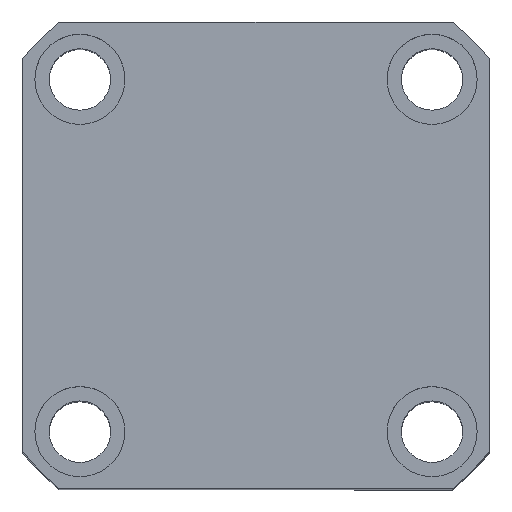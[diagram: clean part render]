
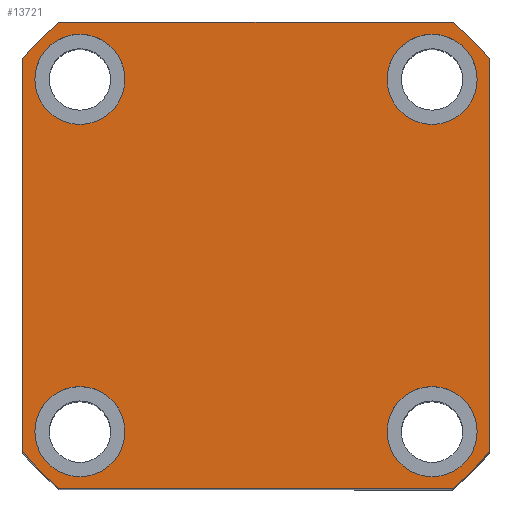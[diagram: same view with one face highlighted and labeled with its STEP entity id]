
A CAD part, top view. The second image highlights one B-rep face of the part: STEP entity #13721.
In plain terms, the highlighted planar face has unit normal (0, 0, 1) as drawn and (0, 0, -1) by its records, which use the part's own axes.
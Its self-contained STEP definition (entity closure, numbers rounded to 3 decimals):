
#216 = ORIENTED_EDGE ( 'NONE', *, *, #2743, .F. ) ;
#232 = CARTESIAN_POINT ( 'NONE',  ( 47.971, 57., 0. ) ) ;
#498 = VERTEX_POINT ( 'NONE', #1895 ) ;
#527 = VERTEX_POINT ( 'NONE', #14803 ) ;
#605 = EDGE_CURVE ( 'NONE', #498, #4466, #11967, .T. ) ;
#616 = CARTESIAN_POINT ( 'NONE',  ( 43., -43., 0. ) ) ;
#629 = CARTESIAN_POINT ( 'NONE',  ( 54., 43., 0. ) ) ;
#633 = DIRECTION ( 'NONE',  ( 0., 0., 1. ) ) ;
#772 = CARTESIAN_POINT ( 'NONE',  ( -43., 43., 0. ) ) ;
#1293 = EDGE_CURVE ( 'NONE', #2015, #527, #6297, .T. ) ;
#1352 = CARTESIAN_POINT ( 'NONE',  ( 0., 0., 0. ) ) ;
#1443 = CARTESIAN_POINT ( 'NONE',  ( 43., -43., 0. ) ) ;
#1501 = ORIENTED_EDGE ( 'NONE', *, *, #9954, .F. ) ;
#1529 = DIRECTION ( 'NONE',  ( 0., 0., -1. ) ) ;
#1565 = CIRCLE ( 'NONE', #6454, 11. ) ;
#1672 = LINE ( 'NONE', #5166, #7195 ) ;
#1802 = ORIENTED_EDGE ( 'NONE', *, *, #12799, .F. ) ;
#1819 = DIRECTION ( 'NONE',  ( -1., 0., 0. ) ) ;
#1878 = EDGE_LOOP ( 'NONE', ( #8518, #1898 ) ) ;
#1895 = CARTESIAN_POINT ( 'NONE',  ( -57., -47.971, 0. ) ) ;
#1898 = ORIENTED_EDGE ( 'NONE', *, *, #12429, .F. ) ;
#1904 = DIRECTION ( 'NONE',  ( 0., 0., 1. ) ) ;
#1937 = LINE ( 'NONE', #13585, #10575 ) ;
#1976 = DIRECTION ( 'NONE',  ( -1., 0., 0. ) ) ;
#1989 = FACE_BOUND ( 'NONE', #8502, .T. ) ;
#2015 = VERTEX_POINT ( 'NONE', #14696 ) ;
#2083 = DIRECTION ( 'NONE',  ( 0., -1., 0. ) ) ;
#2204 = CARTESIAN_POINT ( 'NONE',  ( -32., -43., 0. ) ) ;
#2244 = ORIENTED_EDGE ( 'NONE', *, *, #9610, .F. ) ;
#2536 = EDGE_CURVE ( 'NONE', #10197, #5300, #5535, .T. ) ;
#2543 = DIRECTION ( 'NONE',  ( 0., 0., 1. ) ) ;
#2629 = DIRECTION ( 'NONE',  ( -1., 0., 0. ) ) ;
#2743 = EDGE_CURVE ( 'NONE', #4466, #2015, #1672, .T. ) ;
#2754 = DIRECTION ( 'NONE',  ( 0., 0., 1. ) ) ;
#2986 = EDGE_LOOP ( 'NONE', ( #2244, #1501 ) ) ;
#3050 = CARTESIAN_POINT ( 'NONE',  ( 43., 43., 0. ) ) ;
#3223 = AXIS2_PLACEMENT_3D ( 'NONE', #12905, #5878, #14096 ) ;
#3282 = AXIS2_PLACEMENT_3D ( 'NONE', #772, #9017, #1976 ) ;
#3777 = AXIS2_PLACEMENT_3D ( 'NONE', #12576, #5552, #13777 ) ;
#3816 = EDGE_CURVE ( 'NONE', #10803, #8608, #14274, .T. ) ;
#4206 = CIRCLE ( 'NONE', #8216, 74.5 ) ;
#4225 = DIRECTION ( 'NONE',  ( 0., 0., -1. ) ) ;
#4244 = DIRECTION ( 'NONE',  ( -1., 0., 0. ) ) ;
#4466 = VERTEX_POINT ( 'NONE', #10145 ) ;
#4543 = EDGE_CURVE ( 'NONE', #14771, #498, #8202, .T. ) ;
#4744 = FACE_OUTER_BOUND ( 'NONE', #12534, .T. ) ;
#5044 = VECTOR ( 'NONE', #11672, 1000. ) ;
#5071 = CIRCLE ( 'NONE', #3282, 11. ) ;
#5116 = FACE_BOUND ( 'NONE', #1878, .T. ) ;
#5166 = CARTESIAN_POINT ( 'NONE',  ( -57., -57., 0. ) ) ;
#5226 = CARTESIAN_POINT ( 'NONE',  ( 0., 0., 0. ) ) ;
#5300 = VERTEX_POINT ( 'NONE', #11380 ) ;
#5467 = AXIS2_PLACEMENT_3D ( 'NONE', #8577, #1529, #9734 ) ;
#5535 = CIRCLE ( 'NONE', #3223, 11. ) ;
#5552 = DIRECTION ( 'NONE',  ( 0., 0., -1. ) ) ;
#5878 = DIRECTION ( 'NONE',  ( 0., 0., -1. ) ) ;
#6297 = CIRCLE ( 'NONE', #9598, 74.5 ) ;
#6318 = VERTEX_POINT ( 'NONE', #10239 ) ;
#6454 = AXIS2_PLACEMENT_3D ( 'NONE', #3050, #11256, #4244 ) ;
#6511 = ORIENTED_EDGE ( 'NONE', *, *, #605, .F. ) ;
#6699 = ORIENTED_EDGE ( 'NONE', *, *, #14766, .F. ) ;
#6786 = CIRCLE ( 'NONE', #14309, 11. ) ;
#6860 = ORIENTED_EDGE ( 'NONE', *, *, #1293, .F. ) ;
#6945 = CIRCLE ( 'NONE', #5467, 11. ) ;
#7041 = ORIENTED_EDGE ( 'NONE', *, *, #13222, .F. ) ;
#7127 = CARTESIAN_POINT ( 'NONE',  ( 57., 47.971, 0. ) ) ;
#7195 = VECTOR ( 'NONE', #14570, 1000. ) ;
#7456 = LINE ( 'NONE', #10494, #5044 ) ;
#7717 = CARTESIAN_POINT ( 'NONE',  ( 0., 0., 0. ) ) ;
#7887 = FACE_BOUND ( 'NONE', #2986, .T. ) ;
#7976 = EDGE_CURVE ( 'NONE', #8962, #9883, #9296, .T. ) ;
#7980 = VERTEX_POINT ( 'NONE', #13567 ) ;
#8063 = VERTEX_POINT ( 'NONE', #10116 ) ;
#8202 = LINE ( 'NONE', #9076, #8567 ) ;
#8216 = AXIS2_PLACEMENT_3D ( 'NONE', #7717, #633, #8871 ) ;
#8337 = ORIENTED_EDGE ( 'NONE', *, *, #2536, .F. ) ;
#8406 = PLANE ( 'NONE',  #11057 ) ;
#8502 = EDGE_LOOP ( 'NONE', ( #6699, #8337 ) ) ;
#8518 = ORIENTED_EDGE ( 'NONE', *, *, #3816, .F. ) ;
#8519 = CARTESIAN_POINT ( 'NONE',  ( 54., -43., 0. ) ) ;
#8567 = VECTOR ( 'NONE', #2083, 1000. ) ;
#8577 = CARTESIAN_POINT ( 'NONE',  ( -43., -43., 0. ) ) ;
#8608 = VERTEX_POINT ( 'NONE', #8519 ) ;
#8853 = DIRECTION ( 'NONE',  ( 0., 0., -1. ) ) ;
#8871 = DIRECTION ( 'NONE',  ( 1., 0., 0. ) ) ;
#8887 = AXIS2_PLACEMENT_3D ( 'NONE', #11238, #4225, #12421 ) ;
#8911 = DIRECTION ( 'NONE',  ( 0., 1., 0. ) ) ;
#8946 = CARTESIAN_POINT ( 'NONE',  ( 0., 0., 0. ) ) ;
#8962 = VERTEX_POINT ( 'NONE', #629 ) ;
#9017 = DIRECTION ( 'NONE',  ( 0., 0., -1. ) ) ;
#9076 = CARTESIAN_POINT ( 'NONE',  ( -57., 57., 0. ) ) ;
#9296 = CIRCLE ( 'NONE', #8887, 11. ) ;
#9516 = EDGE_CURVE ( 'NONE', #9883, #8962, #1565, .T. ) ;
#9518 = EDGE_CURVE ( 'NONE', #527, #14416, #1937, .T. ) ;
#9598 = AXIS2_PLACEMENT_3D ( 'NONE', #11310, #11261, #10244 ) ;
#9610 = EDGE_CURVE ( 'NONE', #8063, #6318, #5071, .T. ) ;
#9652 = DIRECTION ( 'NONE',  ( 0., 0., -1. ) ) ;
#9734 = DIRECTION ( 'NONE',  ( -1., 0., 0. ) ) ;
#9883 = VERTEX_POINT ( 'NONE', #14860 ) ;
#9954 = EDGE_CURVE ( 'NONE', #6318, #8063, #14978, .T. ) ;
#9963 = ORIENTED_EDGE ( 'NONE', *, *, #9516, .F. ) ;
#10116 = CARTESIAN_POINT ( 'NONE',  ( -54., 43., 0. ) ) ;
#10118 = DIRECTION ( 'NONE',  ( 1., 0., 0. ) ) ;
#10145 = CARTESIAN_POINT ( 'NONE',  ( -47.971, -57., 0. ) ) ;
#10197 = VERTEX_POINT ( 'NONE', #2204 ) ;
#10207 = CARTESIAN_POINT ( 'NONE',  ( 32., -43., 0. ) ) ;
#10239 = CARTESIAN_POINT ( 'NONE',  ( -32., 43., 0. ) ) ;
#10244 = DIRECTION ( 'NONE',  ( 1., 0., 0. ) ) ;
#10341 = ORIENTED_EDGE ( 'NONE', *, *, #10953, .F. ) ;
#10494 = CARTESIAN_POINT ( 'NONE',  ( -57., 57., 0. ) ) ;
#10537 = ORIENTED_EDGE ( 'NONE', *, *, #4543, .F. ) ;
#10575 = VECTOR ( 'NONE', #8911, 1000. ) ;
#10762 = DIRECTION ( 'NONE',  ( 1., 0., 0. ) ) ;
#10803 = VERTEX_POINT ( 'NONE', #10207 ) ;
#10953 = EDGE_CURVE ( 'NONE', #14675, #7980, #7456, .T. ) ;
#10989 = FACE_BOUND ( 'NONE', #14508, .T. ) ;
#11057 = AXIS2_PLACEMENT_3D ( 'NONE', #1352, #2543, #10762 ) ;
#11175 = CIRCLE ( 'NONE', #12426, 74.5 ) ;
#11238 = CARTESIAN_POINT ( 'NONE',  ( 43., 43., 0. ) ) ;
#11256 = DIRECTION ( 'NONE',  ( 0., 0., -1. ) ) ;
#11261 = DIRECTION ( 'NONE',  ( 0., 0., 1. ) ) ;
#11310 = CARTESIAN_POINT ( 'NONE',  ( 0., 0., 0. ) ) ;
#11380 = CARTESIAN_POINT ( 'NONE',  ( -54., -43., 0. ) ) ;
#11672 = DIRECTION ( 'NONE',  ( -1., 0., 0. ) ) ;
#11967 = CIRCLE ( 'NONE', #13589, 74.5 ) ;
#11970 = ORIENTED_EDGE ( 'NONE', *, *, #7976, .F. ) ;
#12421 = DIRECTION ( 'NONE',  ( -1., 0., 0. ) ) ;
#12426 = AXIS2_PLACEMENT_3D ( 'NONE', #8946, #1904, #10118 ) ;
#12429 = EDGE_CURVE ( 'NONE', #8608, #10803, #6786, .T. ) ;
#12527 = ORIENTED_EDGE ( 'NONE', *, *, #9518, .F. ) ;
#12534 = EDGE_LOOP ( 'NONE', ( #7041, #12527, #6860, #216, #6511, #10537, #1802, #10341 ) ) ;
#12576 = CARTESIAN_POINT ( 'NONE',  ( -43., 43., 0. ) ) ;
#12799 = EDGE_CURVE ( 'NONE', #7980, #14771, #11175, .T. ) ;
#12905 = CARTESIAN_POINT ( 'NONE',  ( -43., -43., 0. ) ) ;
#13222 = EDGE_CURVE ( 'NONE', #14416, #14675, #4206, .T. ) ;
#13567 = CARTESIAN_POINT ( 'NONE',  ( -47.971, 57., 0. ) ) ;
#13585 = CARTESIAN_POINT ( 'NONE',  ( 57., 57., 0. ) ) ;
#13589 = AXIS2_PLACEMENT_3D ( 'NONE', #5226, #2754, #14422 ) ;
#13721 = ADVANCED_FACE ( 'NONE', ( #1989, #5116, #10989, #7887, #4744 ), #8406, .F. ) ;
#13777 = DIRECTION ( 'NONE',  ( -1., 0., 0. ) ) ;
#14096 = DIRECTION ( 'NONE',  ( -1., 0., 0. ) ) ;
#14274 = CIRCLE ( 'NONE', #15244, 11. ) ;
#14309 = AXIS2_PLACEMENT_3D ( 'NONE', #1443, #9652, #2629 ) ;
#14416 = VERTEX_POINT ( 'NONE', #7127 ) ;
#14422 = DIRECTION ( 'NONE',  ( 1., 0., 0. ) ) ;
#14439 = CARTESIAN_POINT ( 'NONE',  ( -57., 47.971, 0. ) ) ;
#14508 = EDGE_LOOP ( 'NONE', ( #9963, #11970 ) ) ;
#14570 = DIRECTION ( 'NONE',  ( 1., 0., 0. ) ) ;
#14675 = VERTEX_POINT ( 'NONE', #232 ) ;
#14696 = CARTESIAN_POINT ( 'NONE',  ( 47.971, -57., 0. ) ) ;
#14766 = EDGE_CURVE ( 'NONE', #5300, #10197, #6945, .T. ) ;
#14771 = VERTEX_POINT ( 'NONE', #14439 ) ;
#14803 = CARTESIAN_POINT ( 'NONE',  ( 57., -47.971, 0. ) ) ;
#14860 = CARTESIAN_POINT ( 'NONE',  ( 32., 43., 0. ) ) ;
#14978 = CIRCLE ( 'NONE', #3777, 11. ) ;
#15244 = AXIS2_PLACEMENT_3D ( 'NONE', #616, #8853, #1819 ) ;
